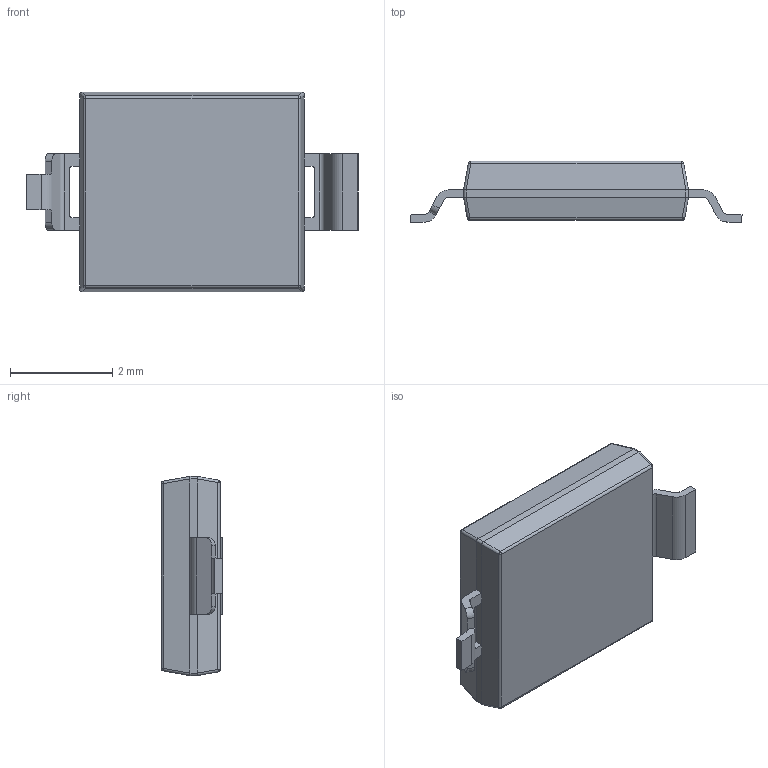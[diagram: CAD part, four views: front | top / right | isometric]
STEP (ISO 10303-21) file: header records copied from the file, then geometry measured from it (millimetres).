
FILE_DESCRIPTION (( 'STEP AP214' ), '1' );
FILE_NAME ('SFH 2401.STEP', '2024-06-26T13:37:48', ( '' ), ( '' ), 'SwSTEP 2.0', 'SolidWorks 2016', '' );
FILE_SCHEMA (( 'AUTOMOTIVE_DESIGN' ));
Length unit declared in the file: millimetre
Products named in the file (1): SFH 2401
Bounding box: 6.5 x 1.2 x 3.9 mm (x, y, z)
Volume: 19.5 mm3; surface area: 57.5 mm2
Topology: 1 solids, 1 shells, 88 faces, 234 edges, 136 vertices
Faces by surface type: plane 46, cylinder 34, sphere 8
Entity records: 3114 total; most frequent: CARTESIAN_POINT 523, ORIENTED_EDGE 452, DIRECTION 432, EDGE_CURVE 226, VECTOR 150, LINE 150, AXIS2_PLACEMENT_3D 141, VERTEX_POINT 136
